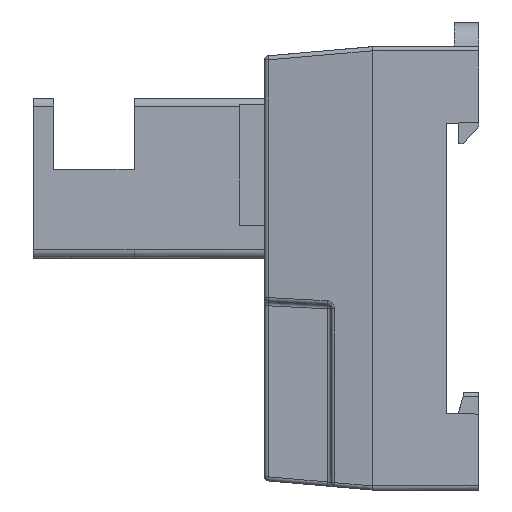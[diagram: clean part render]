
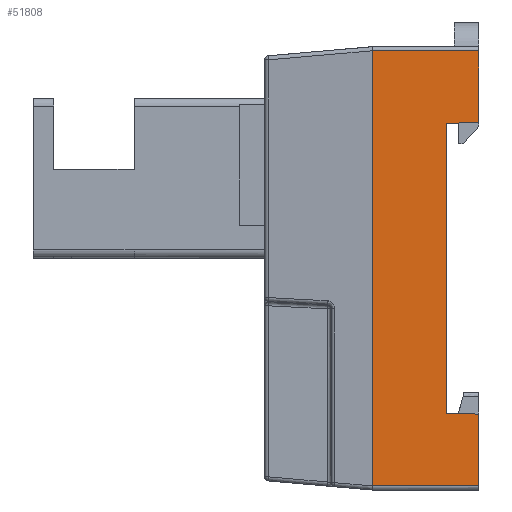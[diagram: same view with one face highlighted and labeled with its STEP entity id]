
A CAD part, left-side view. The second image highlights one B-rep face of the part: STEP entity #51808.
In plain terms, the highlighted planar face has unit normal (-1, 0, 0).
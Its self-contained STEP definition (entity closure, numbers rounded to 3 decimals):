
#1475 = EDGE_CURVE ( 'NONE', #35881, #62809, #66293, .T. ) ;
#1562 = LINE ( 'NONE', #17230, #26340 ) ;
#1649 = DIRECTION ( 'NONE',  ( 0., 1., 0. ) ) ;
#1679 = DIRECTION ( 'NONE',  ( 0., 0., 1. ) ) ;
#2744 = LINE ( 'NONE', #43758, #14889 ) ;
#3051 = CARTESIAN_POINT ( 'NONE',  ( -72., -13., 17.75 ) ) ;
#3163 = ORIENTED_EDGE ( 'NONE', *, *, #50795, .T. ) ;
#3466 = CARTESIAN_POINT ( 'NONE',  ( -72., -13., 27. ) ) ;
#6333 = ORIENTED_EDGE ( 'NONE', *, *, #54238, .T. ) ;
#7889 = VECTOR ( 'NONE', #1679, 1000. ) ;
#11243 = CARTESIAN_POINT ( 'NONE',  ( -72., -9., -17.68 ) ) ;
#11311 = DIRECTION ( 'NONE',  ( 0., 0., -1. ) ) ;
#12363 = ORIENTED_EDGE ( 'NONE', *, *, #33560, .T. ) ;
#13570 = DIRECTION ( 'NONE',  ( 0., 0., 1. ) ) ;
#14010 = ORIENTED_EDGE ( 'NONE', *, *, #25583, .F. ) ;
#14855 = CARTESIAN_POINT ( 'NONE',  ( -72., 0., -26.5 ) ) ;
#14889 = VECTOR ( 'NONE', #55226, 1000. ) ;
#14929 = VECTOR ( 'NONE', #11311, 1000. ) ;
#16417 = AXIS2_PLACEMENT_3D ( 'NONE', #3466, #65684, #13570 ) ;
#17230 = CARTESIAN_POINT ( 'NONE',  ( -72., -13., -26.5 ) ) ;
#17805 = VECTOR ( 'NONE', #56587, 1000. ) ;
#17873 = EDGE_CURVE ( 'NONE', #56795, #26960, #56923, .T. ) ;
#19772 = CARTESIAN_POINT ( 'NONE',  ( -72., -12.219, -17.736 ) ) ;
#22792 = DIRECTION ( 'NONE',  ( 0., -1., 0. ) ) ;
#22945 = CARTESIAN_POINT ( 'NONE',  ( -72., 0., 27. ) ) ;
#23044 = CARTESIAN_POINT ( 'NONE',  ( -72., -9., 27. ) ) ;
#25583 = EDGE_CURVE ( 'NONE', #52250, #50350, #68253, .T. ) ;
#26123 = EDGE_LOOP ( 'NONE', ( #66345, #3163, #6333, #38352, #28066, #14010, #12363, #39862 ) ) ;
#26340 = VECTOR ( 'NONE', #22792, 1000. ) ;
#26960 = VERTEX_POINT ( 'NONE', #35885 ) ;
#28066 = ORIENTED_EDGE ( 'NONE', *, *, #34284, .F. ) ;
#32293 = LINE ( 'NONE', #59375, #7889 ) ;
#33427 = VECTOR ( 'NONE', #55577, 1000. ) ;
#33560 = EDGE_CURVE ( 'NONE', #52250, #35881, #2744, .T. ) ;
#33715 = FACE_OUTER_BOUND ( 'NONE', #26123, .T. ) ;
#34142 = LINE ( 'NONE', #23044, #14929 ) ;
#34284 = EDGE_CURVE ( 'NONE', #50350, #56795, #34142, .T. ) ;
#35881 = VERTEX_POINT ( 'NONE', #42387 ) ;
#35885 = CARTESIAN_POINT ( 'NONE',  ( -72., -13., -17.75 ) ) ;
#38352 = ORIENTED_EDGE ( 'NONE', *, *, #17873, .F. ) ;
#38555 = LINE ( 'NONE', #22945, #33427 ) ;
#39862 = ORIENTED_EDGE ( 'NONE', *, *, #1475, .T. ) ;
#41504 = DIRECTION ( 'NONE',  ( 0., 1., -0.017 ) ) ;
#42387 = CARTESIAN_POINT ( 'NONE',  ( -72., -13., 26.5 ) ) ;
#42516 = CARTESIAN_POINT ( 'NONE',  ( -72., -13.161, 17.753 ) ) ;
#43758 = CARTESIAN_POINT ( 'NONE',  ( -72., -13., 27. ) ) ;
#44046 = CARTESIAN_POINT ( 'NONE',  ( -72., -13., 26.5 ) ) ;
#44311 = VERTEX_POINT ( 'NONE', #46050 ) ;
#46050 = CARTESIAN_POINT ( 'NONE',  ( -72., -13., -26.5 ) ) ;
#50350 = VERTEX_POINT ( 'NONE', #56735 ) ;
#50795 = EDGE_CURVE ( 'NONE', #60646, #44311, #1562, .T. ) ;
#51808 = ADVANCED_FACE ( 'NONE', ( #33715 ), #54907, .T. ) ;
#52250 = VERTEX_POINT ( 'NONE', #3051 ) ;
#52475 = VECTOR ( 'NONE', #1649, 1000. ) ;
#54238 = EDGE_CURVE ( 'NONE', #44311, #26960, #32293, .T. ) ;
#54635 = EDGE_CURVE ( 'NONE', #60646, #62809, #38555, .T. ) ;
#54907 = PLANE ( 'NONE',  #16417 ) ;
#55226 = DIRECTION ( 'NONE',  ( 0., 0., 1. ) ) ;
#55577 = DIRECTION ( 'NONE',  ( 0., 0., 1. ) ) ;
#56587 = DIRECTION ( 'NONE',  ( 0., -1., -0.017 ) ) ;
#56735 = CARTESIAN_POINT ( 'NONE',  ( -72., -9., 17.68 ) ) ;
#56795 = VERTEX_POINT ( 'NONE', #11243 ) ;
#56923 = LINE ( 'NONE', #19772, #17805 ) ;
#59375 = CARTESIAN_POINT ( 'NONE',  ( -72., -13., 27. ) ) ;
#60243 = VECTOR ( 'NONE', #41504, 1000. ) ;
#60646 = VERTEX_POINT ( 'NONE', #14855 ) ;
#62809 = VERTEX_POINT ( 'NONE', #68461 ) ;
#65684 = DIRECTION ( 'NONE',  ( -1., 0., 0. ) ) ;
#66293 = LINE ( 'NONE', #44046, #52475 ) ;
#66345 = ORIENTED_EDGE ( 'NONE', *, *, #54635, .F. ) ;
#68253 = LINE ( 'NONE', #42516, #60243 ) ;
#68461 = CARTESIAN_POINT ( 'NONE',  ( -72., 0., 26.5 ) ) ;
